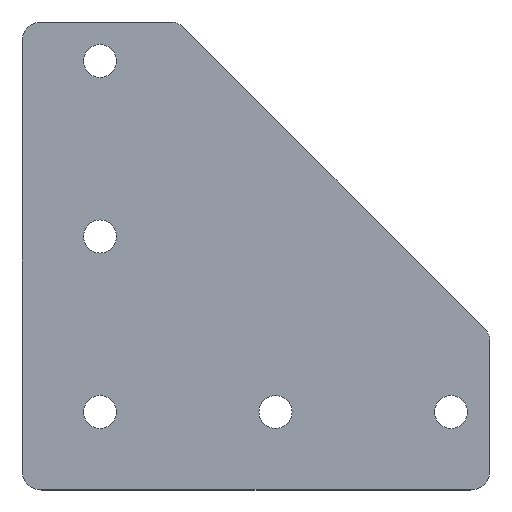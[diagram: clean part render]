
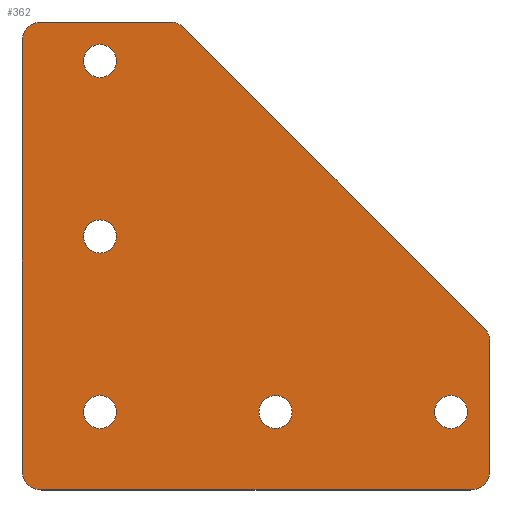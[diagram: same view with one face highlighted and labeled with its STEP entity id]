
A CAD part, top view. The second image highlights one B-rep face of the part: STEP entity #362.
In plain terms, the highlighted planar face has unit normal (0, 0, 1).
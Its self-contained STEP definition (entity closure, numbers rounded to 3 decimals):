
#20=FACE_BOUND('',#71,.T.);
#21=FACE_BOUND('',#72,.T.);
#22=FACE_BOUND('',#73,.T.);
#23=FACE_BOUND('',#74,.T.);
#24=FACE_BOUND('',#75,.T.);
#31=PLANE('',#424);
#48=FACE_OUTER_BOUND('',#70,.T.);
#70=EDGE_LOOP('',(#317,#318,#319,#320,#321,#322,#323,#324,#325,#326));
#71=EDGE_LOOP('',(#327,#328));
#72=EDGE_LOOP('',(#329));
#73=EDGE_LOOP('',(#330,#331));
#74=EDGE_LOOP('',(#332,#333));
#75=EDGE_LOOP('',(#334,#335));
#81=LINE('',#559,#106);
#88=LINE('',#593,#113);
#91=LINE('',#602,#116);
#99=LINE('',#635,#124);
#100=LINE('',#637,#125);
#106=VECTOR('',#448,10.);
#113=VECTOR('',#481,10.);
#116=VECTOR('',#490,10.);
#124=VECTOR('',#530,10.);
#125=VECTOR('',#533,10.);
#126=CIRCLE('',#384,4.25);
#127=CIRCLE('',#385,4.25);
#129=CIRCLE('',#388,5.);
#140=CIRCLE('',#402,5.);
#141=CIRCLE('',#405,5.);
#142=CIRCLE('',#408,5.);
#143=CIRCLE('',#410,5.);
#144=CIRCLE('',#412,4.25);
#145=CIRCLE('',#414,4.25);
#146=CIRCLE('',#415,4.25);
#147=CIRCLE('',#417,4.25);
#148=CIRCLE('',#418,4.25);
#149=CIRCLE('',#420,4.25);
#150=CIRCLE('',#421,4.25);
#151=VERTEX_POINT('',#538);
#152=VERTEX_POINT('',#539);
#154=VERTEX_POINT('',#546);
#155=VERTEX_POINT('',#547);
#159=VERTEX_POINT('',#557);
#172=VERTEX_POINT('',#587);
#173=VERTEX_POINT('',#591);
#174=VERTEX_POINT('',#595);
#175=VERTEX_POINT('',#596);
#176=VERTEX_POINT('',#601);
#177=VERTEX_POINT('',#605);
#178=VERTEX_POINT('',#609);
#179=VERTEX_POINT('',#613);
#180=VERTEX_POINT('',#617);
#181=VERTEX_POINT('',#618);
#182=VERTEX_POINT('',#623);
#183=VERTEX_POINT('',#624);
#184=VERTEX_POINT('',#629);
#185=VERTEX_POINT('',#630);
#186=EDGE_CURVE('',#151,#152,#126,.T.);
#187=EDGE_CURVE('',#152,#151,#127,.T.);
#190=EDGE_CURVE('',#154,#155,#129,.T.);
#196=EDGE_CURVE('',#159,#154,#81,.T.);
#210=EDGE_CURVE('',#172,#159,#140,.T.);
#213=EDGE_CURVE('',#173,#172,#88,.T.);
#214=EDGE_CURVE('',#174,#175,#141,.T.);
#217=EDGE_CURVE('',#175,#176,#91,.T.);
#219=EDGE_CURVE('',#176,#177,#142,.T.);
#221=EDGE_CURVE('',#178,#173,#143,.T.);
#224=EDGE_CURVE('',#179,#179,#144,.T.);
#225=EDGE_CURVE('',#180,#181,#145,.T.);
#226=EDGE_CURVE('',#181,#180,#146,.T.);
#228=EDGE_CURVE('',#182,#183,#147,.T.);
#229=EDGE_CURVE('',#183,#182,#148,.T.);
#231=EDGE_CURVE('',#184,#185,#149,.T.);
#232=EDGE_CURVE('',#185,#184,#150,.T.);
#234=EDGE_CURVE('',#177,#178,#99,.T.);
#235=EDGE_CURVE('',#155,#174,#100,.T.);
#317=ORIENTED_EDGE('',*,*,#190,.F.);
#318=ORIENTED_EDGE('',*,*,#196,.F.);
#319=ORIENTED_EDGE('',*,*,#210,.F.);
#320=ORIENTED_EDGE('',*,*,#213,.F.);
#321=ORIENTED_EDGE('',*,*,#221,.F.);
#322=ORIENTED_EDGE('',*,*,#234,.F.);
#323=ORIENTED_EDGE('',*,*,#219,.F.);
#324=ORIENTED_EDGE('',*,*,#217,.F.);
#325=ORIENTED_EDGE('',*,*,#214,.F.);
#326=ORIENTED_EDGE('',*,*,#235,.F.);
#327=ORIENTED_EDGE('',*,*,#186,.T.);
#328=ORIENTED_EDGE('',*,*,#187,.T.);
#329=ORIENTED_EDGE('',*,*,#224,.T.);
#330=ORIENTED_EDGE('',*,*,#225,.T.);
#331=ORIENTED_EDGE('',*,*,#226,.T.);
#332=ORIENTED_EDGE('',*,*,#228,.T.);
#333=ORIENTED_EDGE('',*,*,#229,.T.);
#334=ORIENTED_EDGE('',*,*,#231,.T.);
#335=ORIENTED_EDGE('',*,*,#232,.T.);
#362=ADVANCED_FACE('',(#48,#20,#21,#22,#23,#24),#31,.T.);
#384=AXIS2_PLACEMENT_3D('',#540,#429,#430);
#385=AXIS2_PLACEMENT_3D('',#541,#431,#432);
#388=AXIS2_PLACEMENT_3D('',#548,#438,#439);
#402=AXIS2_PLACEMENT_3D('',#588,#475,#476);
#405=AXIS2_PLACEMENT_3D('',#597,#484,#485);
#408=AXIS2_PLACEMENT_3D('',#606,#494,#495);
#410=AXIS2_PLACEMENT_3D('',#610,#499,#500);
#412=AXIS2_PLACEMENT_3D('',#615,#505,#506);
#414=AXIS2_PLACEMENT_3D('',#619,#509,#510);
#415=AXIS2_PLACEMENT_3D('',#620,#511,#512);
#417=AXIS2_PLACEMENT_3D('',#625,#516,#517);
#418=AXIS2_PLACEMENT_3D('',#626,#518,#519);
#420=AXIS2_PLACEMENT_3D('',#631,#523,#524);
#421=AXIS2_PLACEMENT_3D('',#632,#525,#526);
#424=AXIS2_PLACEMENT_3D('',#638,#534,#535);
#429=DIRECTION('center_axis',(0.,0.,-1.));
#430=DIRECTION('ref_axis',(1.,0.,0.));
#431=DIRECTION('center_axis',(0.,0.,-1.));
#432=DIRECTION('ref_axis',(1.,0.,0.));
#438=DIRECTION('center_axis',(0.,0.,-1.));
#439=DIRECTION('ref_axis',(0.924,0.383,0.));
#448=DIRECTION('',(0.707,-0.707,0.));
#475=DIRECTION('center_axis',(0.,0.,-1.));
#476=DIRECTION('ref_axis',(0.383,0.924,0.));
#481=DIRECTION('',(1.,0.,0.));
#484=DIRECTION('center_axis',(0.,0.,-1.));
#485=DIRECTION('ref_axis',(0.707,-0.707,0.));
#490=DIRECTION('',(-1.,0.,0.));
#494=DIRECTION('center_axis',(0.,0.,-1.));
#495=DIRECTION('ref_axis',(-0.707,-0.707,0.));
#499=DIRECTION('center_axis',(0.,0.,-1.));
#500=DIRECTION('ref_axis',(-0.707,0.707,0.));
#505=DIRECTION('center_axis',(0.,0.,-1.));
#506=DIRECTION('ref_axis',(-1.,0.,0.));
#509=DIRECTION('center_axis',(0.,0.,-1.));
#510=DIRECTION('ref_axis',(1.,0.,0.));
#511=DIRECTION('center_axis',(0.,0.,-1.));
#512=DIRECTION('ref_axis',(1.,0.,0.));
#516=DIRECTION('center_axis',(0.,0.,-1.));
#517=DIRECTION('ref_axis',(1.,0.,0.));
#518=DIRECTION('center_axis',(0.,0.,-1.));
#519=DIRECTION('ref_axis',(1.,0.,0.));
#523=DIRECTION('center_axis',(0.,0.,-1.));
#524=DIRECTION('ref_axis',(1.,0.,0.));
#525=DIRECTION('center_axis',(0.,0.,-1.));
#526=DIRECTION('ref_axis',(1.,0.,0.));
#530=DIRECTION('',(0.,1.,0.));
#533=DIRECTION('',(0.,-1.,0.));
#534=DIRECTION('center_axis',(0.,0.,1.));
#535=DIRECTION('ref_axis',(1.,0.,0.));
#538=CARTESIAN_POINT('',(24.25,65.,3.));
#539=CARTESIAN_POINT('',(15.75,65.,3.));
#540=CARTESIAN_POINT('Origin',(20.,65.,3.));
#541=CARTESIAN_POINT('Origin',(20.,65.,3.));
#546=CARTESIAN_POINT('',(118.536,41.464,3.));
#547=CARTESIAN_POINT('',(120.,37.929,3.));
#548=CARTESIAN_POINT('Origin',(115.,37.929,3.));
#557=CARTESIAN_POINT('',(41.464,118.536,3.));
#559=CARTESIAN_POINT('',(120.,40.,3.));
#587=CARTESIAN_POINT('',(37.929,120.,3.));
#588=CARTESIAN_POINT('Origin',(37.929,115.,3.));
#591=CARTESIAN_POINT('',(5.,120.,3.));
#593=CARTESIAN_POINT('',(110.,120.,3.));
#595=CARTESIAN_POINT('',(120.,5.,3.));
#596=CARTESIAN_POINT('',(115.,0.,3.));
#597=CARTESIAN_POINT('Origin',(115.,5.,3.));
#601=CARTESIAN_POINT('',(5.,0.,3.));
#602=CARTESIAN_POINT('',(0.,0.,3.));
#605=CARTESIAN_POINT('',(0.,5.,3.));
#606=CARTESIAN_POINT('Origin',(5.,5.,3.));
#609=CARTESIAN_POINT('',(0.,115.,3.));
#610=CARTESIAN_POINT('Origin',(5.,115.,3.));
#613=CARTESIAN_POINT('',(114.25,20.,3.));
#615=CARTESIAN_POINT('Origin',(110.,20.,3.));
#617=CARTESIAN_POINT('',(69.25,20.,3.));
#618=CARTESIAN_POINT('',(60.75,20.,3.));
#619=CARTESIAN_POINT('Origin',(65.,20.,3.));
#620=CARTESIAN_POINT('Origin',(65.,20.,3.));
#623=CARTESIAN_POINT('',(24.25,110.,3.));
#624=CARTESIAN_POINT('',(15.75,110.,3.));
#625=CARTESIAN_POINT('Origin',(20.,110.,3.));
#626=CARTESIAN_POINT('Origin',(20.,110.,3.));
#629=CARTESIAN_POINT('',(24.25,20.,3.));
#630=CARTESIAN_POINT('',(15.75,20.,3.));
#631=CARTESIAN_POINT('Origin',(20.,20.,3.));
#632=CARTESIAN_POINT('Origin',(20.,20.,3.));
#635=CARTESIAN_POINT('',(0.,120.,3.));
#637=CARTESIAN_POINT('',(120.,0.,3.));
#638=CARTESIAN_POINT('Origin',(50.448,50.448,3.));
